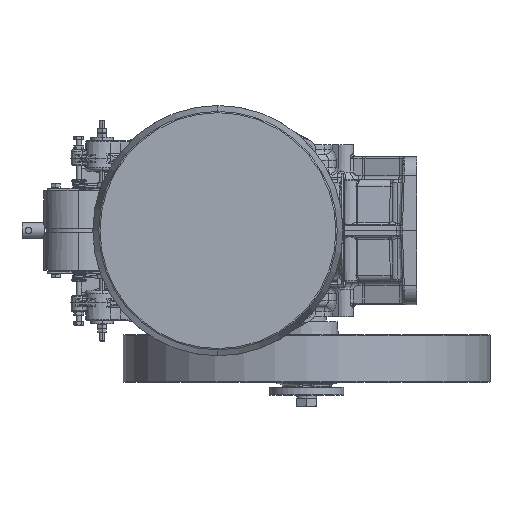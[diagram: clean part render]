
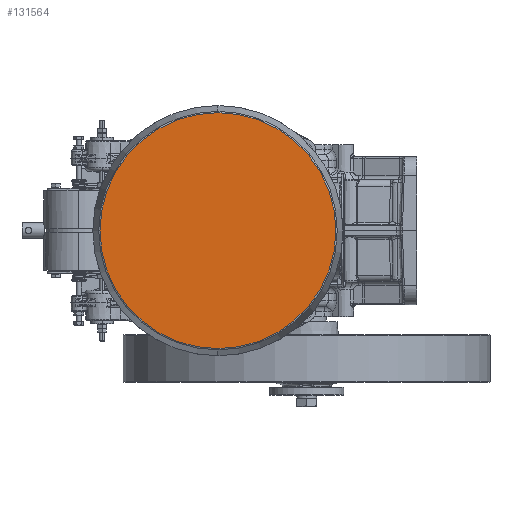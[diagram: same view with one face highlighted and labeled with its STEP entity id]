
A CAD part, left-side view. The second image highlights one B-rep face of the part: STEP entity #131564.
In plain terms, the highlighted planar face has unit normal (-1, 0, 0).
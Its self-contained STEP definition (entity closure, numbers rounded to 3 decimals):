
#131343=CARTESIAN_POINT('',(-583.,134.,0.));
#131344=DIRECTION('',(1.,0.,0.));
#131345=DIRECTION('',(0.,0.,1.));
#131346=AXIS2_PLACEMENT_3D('',#131343,#131344,#131345);
#131348=CARTESIAN_POINT('',(-583.,134.,0.));
#131349=DIRECTION('',(1.,0.,0.));
#131350=DIRECTION('',(0.,0.,-1.));
#131351=AXIS2_PLACEMENT_3D('',#131348,#131349,#131350);
#131537=CARTESIAN_POINT('',(-583.,134.,178.213));
#131538=CARTESIAN_POINT('',(-583.,134.,-178.213));
#131539=VERTEX_POINT('',#131537);
#131540=VERTEX_POINT('',#131538);
#131553=CARTESIAN_POINT('',(-583.,134.,0.));
#131554=DIRECTION('',(1.,0.,0.));
#131555=DIRECTION('',(0.,0.,1.));
#131556=AXIS2_PLACEMENT_3D('',#131553,#131554,#131555);
#131557=PLANE('',#131556);
#131559=ORIENTED_EDGE('',*,*,#131558,.T.);
#131561=ORIENTED_EDGE('',*,*,#131560,.T.);
#131562=EDGE_LOOP('',(#131559,#131561));
#131563=FACE_OUTER_BOUND('',#131562,.F.);
#131564=ADVANCED_FACE('',(#131563),#131557,.F.);
#131347=CIRCLE('',#131346,178.213);
#131352=CIRCLE('',#131351,178.213);
#131558=EDGE_CURVE('',#131539,#131540,#131347,.T.);
#131560=EDGE_CURVE('',#131540,#131539,#131352,.T.);
